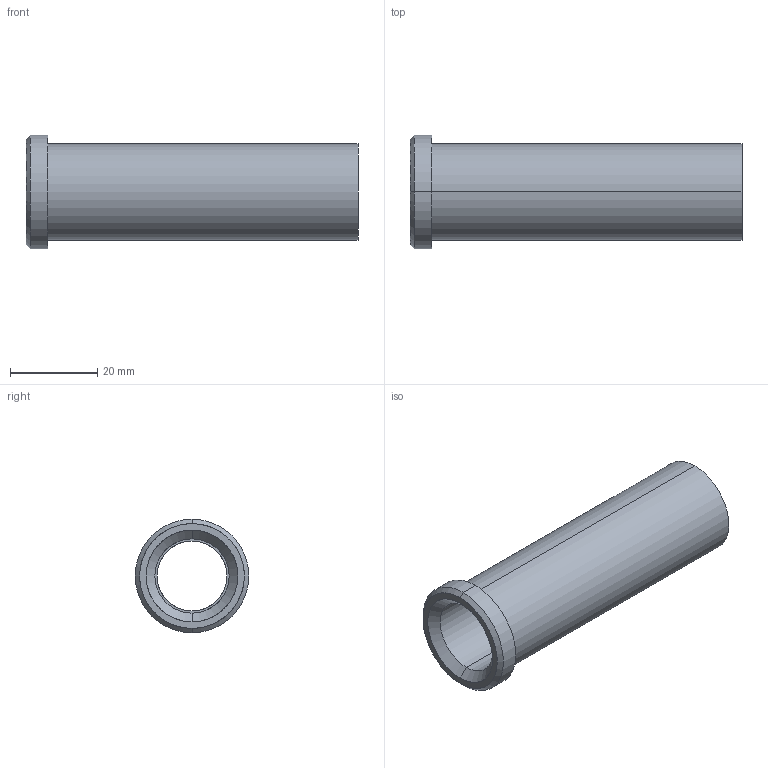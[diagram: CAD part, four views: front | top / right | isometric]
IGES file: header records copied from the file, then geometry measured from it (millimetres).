
Start section: START RECORD GO HERE.
Global section: file name: 353-16X76.igs; native system: DASSAULT SYSTEMES CATIA V5 R20 - www.3ds.com; preprocessor: CATIA Version 5 Release 20 ; author: Utente; organization: NB04-ASUS; date: 20210504.201537; units: millimetre
Bounding box: 76 x 26 x 26 mm (x, y, z)
Surface area: 9806.1 mm2 (no closed solid volume)
Topology: 0 solids, 0 shells, 18 faces, 116 edges, 116 vertices
Faces by surface type: revolution 14, plane 4
